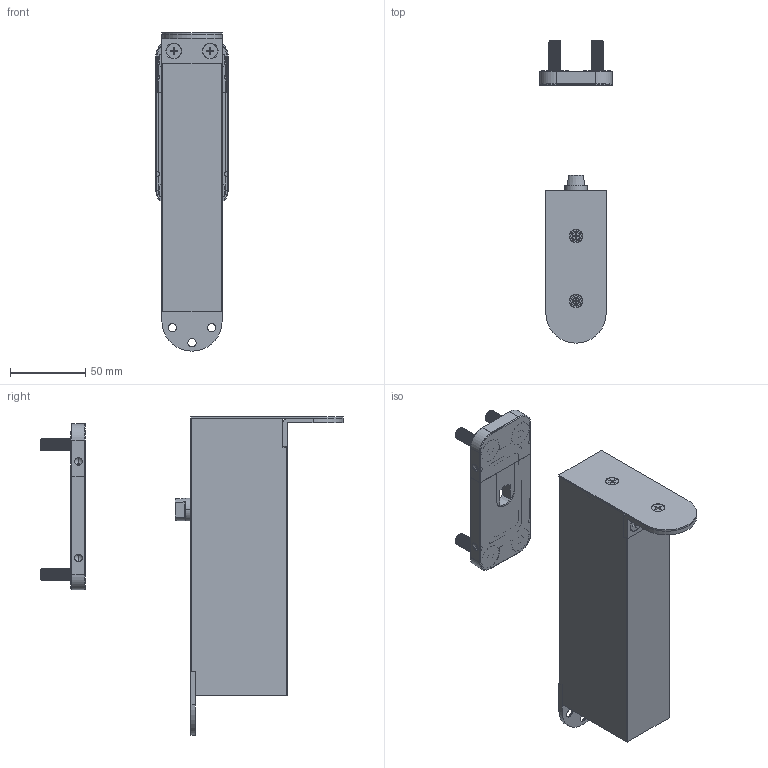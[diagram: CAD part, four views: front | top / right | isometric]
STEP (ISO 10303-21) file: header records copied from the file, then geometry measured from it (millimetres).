
FILE_DESCRIPTION((''),'2;1');
FILE_NAME('ASM0001_ASM','2022-03-09T',('Administrator'),(''),'PRO/ENGINEER BY PARAMETRIC TECHNOLOGY CORPORATION, 2010480','PRO/ENGINEER BY PARAMETRIC TECHNOLOGY CORPORATION, 2010480','');
FILE_SCHEMA(('CONFIG_CONTROL_DESIGN'));
Length unit declared in the file: millimetre
Products named in the file (22): 895-BO; 885-PL; 883-RA; 985-ECU; 505-EC; 888-AV; 888-OP4; 888-AV-_ASM; 310-VS; 895-FP1; 895-FP2; 889-W01; 888-FP; 888-W03; 883-V49; 888-W01; 883-FP_ASM; 895-CP; 2800-W17; 888-CMB; 888-CMC; ASM0001_ASM
Assembly tree (36 placements, depth 3):
  ASM0001_ASM
    895-BO
    885-PL
    883-RA
    985-ECU
    505-EC
    888-AV-_ASM  x3
      888-AV
      888-OP4
    310-VS  x2
    895-FP1
    895-FP2
    889-W01  x4
    883-FP_ASM
      888-FP
      888-W03  x4
      883-V49
      888-W01  x6
    895-CP
    2800-W17  x2
    888-CMB
    888-CMC
Bounding box: 48 x 200.5 x 211 mm (x, y, z)
Volume: 391351.2 mm3; surface area: 140663.5 mm2
Topology: 36 solids, 49 shells, 1612 faces, 4018 edges, 2487 vertices
Faces by surface type: cylinder 727, plane 418, cone 256, bspline 148, torus 47, sphere 16
Entity records: 43042 total; most frequent: CARTESIAN_POINT 22557, DIRECTION 4264, ORIENTED_EDGE 4082, EDGE_CURVE 2067, AXIS2_PLACEMENT_3D 1677, VERTEX_POINT 1289, EDGE_LOOP 962, VECTOR 910
